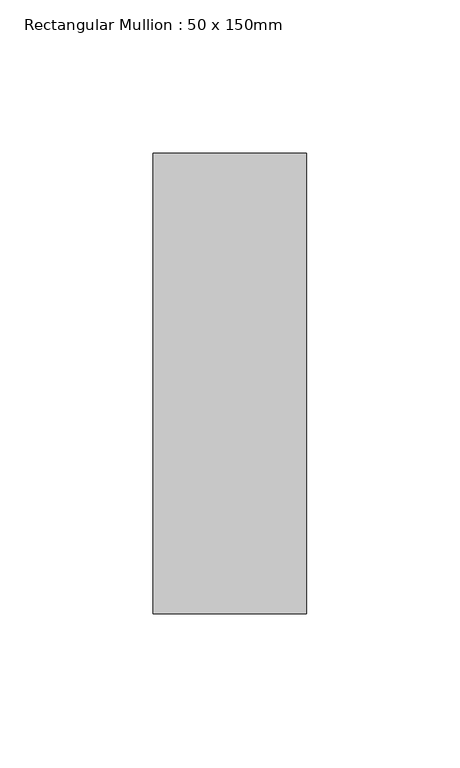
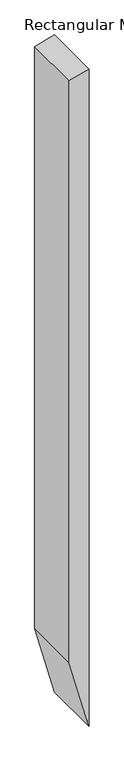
"""IFC4 building model written with IfcOpenShell, lengths in millimetres: member geometry, Rectangular Mullion : 50 x 150mm."""

from ifc_helpers import new_model, si_unit, frame, origin, place, context, project, spatial, polyline, outline, extrude, source, transform, mapped, element, save


def rectangular_mullion_50_x_150mm_82a77900(model_context):
    return source(origin(), model_context, "Body", "SweptSolid", [
        extrude(outline(polyline([(0.0, 0.0), (-13.3974596, -50.0), (-1553.4697947, -50.0), (-1740.0723353, 0.0), (0.0, 0.0)])), frame((0.0, -75.0, 0.0), z_axis=(0.0, 1.0, 0.0), x_axis=(0.0, 0.0, 1.0)), (0.0, 0.0, 1.0), 150.0),
    ])


if __name__ == "__main__":
    model = new_model("IFC4")
    model_context = context("Model", 3, world=origin())
    ifc_project = project(units=[si_unit("LENGTHUNIT", "METRE", prefix="MILLI")], contexts=[model_context])
    site = spatial("IfcSite", under=ifc_project)
    building = spatial("IfcBuilding", under=site)
    placement = place(None, origin())
    rectangular_mullion_50_x_150mm_shape = rectangular_mullion_50_x_150mm_82a77900(model_context)
    element("IfcMember", 1, ObjectType="Rectangular Mullion : 50 x 150mm", at=placement, inside=building, context=model_context, shape_type="MappedRepresentation", body=[
        mapped(rectangular_mullion_50_x_150mm_shape, transform((0.0, 0.0, 0.0), x_axis=(1.0, 0.0, 0.0), y_axis=(0.0, 1.0, 0.0), z_axis=(0.0, 0.0, 1.0))),
    ])
    save(model, "model.ifc")
